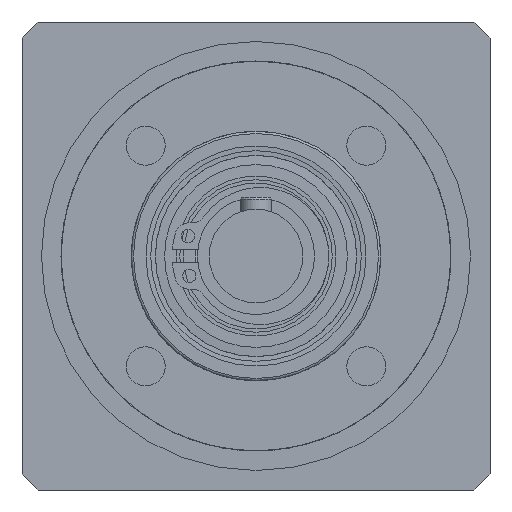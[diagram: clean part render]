
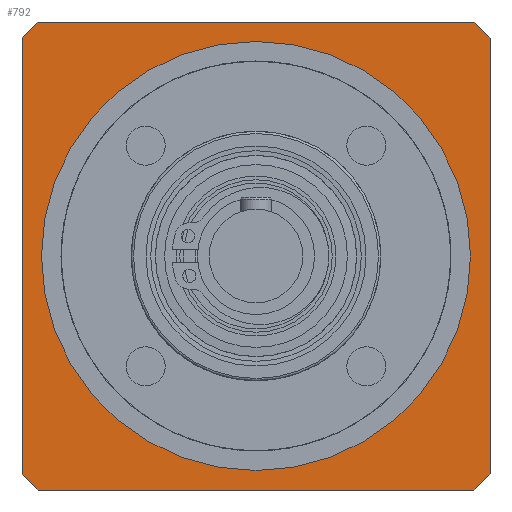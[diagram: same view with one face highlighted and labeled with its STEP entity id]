
A CAD part, left-side view. The second image highlights one B-rep face of the part: STEP entity #792.
In plain terms, the highlighted planar face has unit normal (-1, 0, 0).
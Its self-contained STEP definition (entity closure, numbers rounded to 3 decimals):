
#79=LINE('',#4602,#171);
#80=LINE('',#4606,#172);
#81=LINE('',#4610,#173);
#82=LINE('',#4614,#174);
#171=VECTOR('',#3777,1.);
#172=VECTOR('',#3780,1.);
#173=VECTOR('',#3783,1.);
#174=VECTOR('',#3786,1.);
#792=ADVANCED_FACE('',(#1133,#1134),#898,.T.);
#898=PLANE('',#3053);
#1133=FACE_BOUND('',#1434,.T.);
#1134=FACE_BOUND('',#1435,.T.);
#1434=EDGE_LOOP('',(#1902,#1903,#1904,#1905,#1906,#1907,#1908,#1909));
#1435=EDGE_LOOP('',(#1910));
#1902=ORIENTED_EDGE('',*,*,#2498,.F.);
#1903=ORIENTED_EDGE('',*,*,#2499,.T.);
#1904=ORIENTED_EDGE('',*,*,#2500,.F.);
#1905=ORIENTED_EDGE('',*,*,#2501,.T.);
#1906=ORIENTED_EDGE('',*,*,#2502,.F.);
#1907=ORIENTED_EDGE('',*,*,#2503,.T.);
#1908=ORIENTED_EDGE('',*,*,#2504,.F.);
#1909=ORIENTED_EDGE('',*,*,#2505,.T.);
#1910=ORIENTED_EDGE('',*,*,#2506,.T.);
#2236=VERTEX_POINT('',#4600);
#2237=VERTEX_POINT('',#4601);
#2238=VERTEX_POINT('',#4603);
#2239=VERTEX_POINT('',#4605);
#2240=VERTEX_POINT('',#4607);
#2241=VERTEX_POINT('',#4609);
#2242=VERTEX_POINT('',#4611);
#2243=VERTEX_POINT('',#4613);
#2244=VERTEX_POINT('',#4616);
#2498=EDGE_CURVE('',#2236,#2237,#2711,.T.);
#2499=EDGE_CURVE('',#2236,#2238,#79,.T.);
#2500=EDGE_CURVE('',#2239,#2238,#2712,.T.);
#2501=EDGE_CURVE('',#2239,#2240,#80,.T.);
#2502=EDGE_CURVE('',#2241,#2240,#2713,.T.);
#2503=EDGE_CURVE('',#2241,#2242,#81,.T.);
#2504=EDGE_CURVE('',#2243,#2242,#2714,.T.);
#2505=EDGE_CURVE('',#2243,#2237,#82,.T.);
#2506=EDGE_CURVE('',#2244,#2244,#2715,.T.);
#2711=CIRCLE('',#3048,41.);
#2712=CIRCLE('',#3049,41.);
#2713=CIRCLE('',#3050,41.);
#2714=CIRCLE('',#3051,41.);
#2715=CIRCLE('',#3052,25.);
#3048=AXIS2_PLACEMENT_3D('',#4599,#3775,#3776);
#3049=AXIS2_PLACEMENT_3D('',#4604,#3778,#3779);
#3050=AXIS2_PLACEMENT_3D('',#4608,#3781,#3782);
#3051=AXIS2_PLACEMENT_3D('',#4612,#3784,#3785);
#3052=AXIS2_PLACEMENT_3D('',#4615,#3787,#3788);
#3053=AXIS2_PLACEMENT_3D('',#4617,#3789,#3790);
#3775=DIRECTION('',(1.,0.,0.));
#3776=DIRECTION('',(0.,0.,-1.));
#3777=DIRECTION('',(0.,1.,0.));
#3778=DIRECTION('',(1.,0.,0.));
#3779=DIRECTION('',(0.,0.,-1.));
#3780=DIRECTION('',(0.,0.,-1.));
#3781=DIRECTION('',(1.,0.,0.));
#3782=DIRECTION('',(0.,0.,-1.));
#3783=DIRECTION('',(0.,-1.,0.));
#3784=DIRECTION('',(1.,0.,0.));
#3785=DIRECTION('',(0.,0.,-1.));
#3786=DIRECTION('',(0.,0.,1.));
#3787=DIRECTION('',(1.,0.,0.));
#3788=DIRECTION('',(0.,0.,-1.));
#3789=DIRECTION('',(-1.,0.,0.));
#3790=DIRECTION('',(0.,0.,1.));
#4599=CARTESIAN_POINT('',(0.,0.,0.));
#4600=CARTESIAN_POINT('',(0.,-27.946,30.));
#4601=CARTESIAN_POINT('',(0.,-30.,27.946));
#4602=CARTESIAN_POINT('',(0.,-27.946,30.));
#4603=CARTESIAN_POINT('',(0.,27.946,30.));
#4604=CARTESIAN_POINT('',(0.,0.,0.));
#4605=CARTESIAN_POINT('',(0.,30.,27.946));
#4606=CARTESIAN_POINT('',(0.,30.,27.946));
#4607=CARTESIAN_POINT('',(0.,30.,-27.946));
#4608=CARTESIAN_POINT('',(0.,0.,0.));
#4609=CARTESIAN_POINT('',(0.,27.946,-30.));
#4610=CARTESIAN_POINT('',(0.,27.946,-30.));
#4611=CARTESIAN_POINT('',(0.,-27.946,-30.));
#4612=CARTESIAN_POINT('',(0.,0.,0.));
#4613=CARTESIAN_POINT('',(0.,-30.,-27.946));
#4614=CARTESIAN_POINT('',(0.,-30.,-27.946));
#4615=CARTESIAN_POINT('',(0.,0.,0.));
#4616=CARTESIAN_POINT('',(0.,0.,-25.));
#4617=CARTESIAN_POINT('',(0.,0.,0.));
